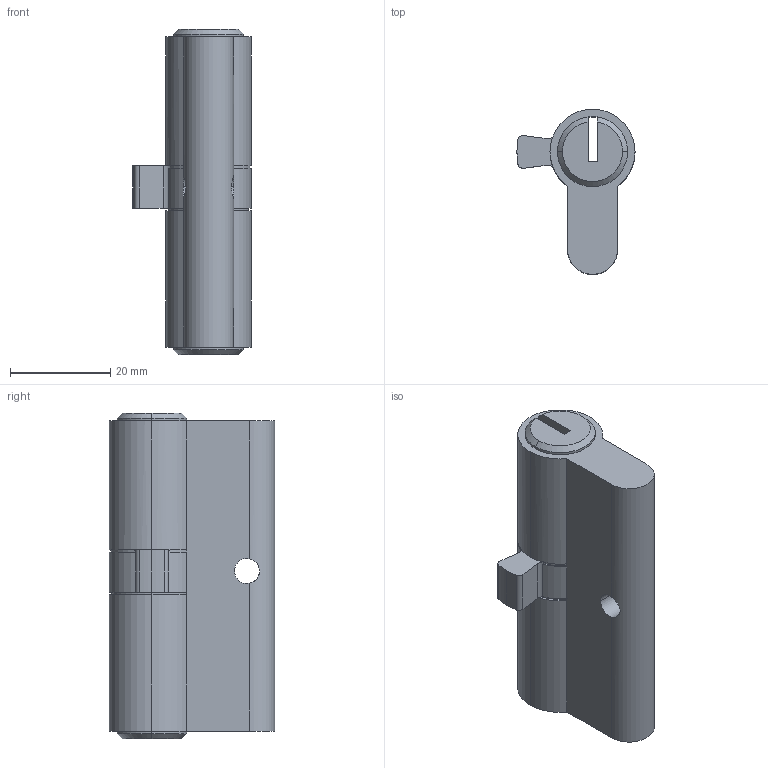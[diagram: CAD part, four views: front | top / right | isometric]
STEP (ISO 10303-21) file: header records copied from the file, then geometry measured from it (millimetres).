
FILE_DESCRIPTION (( 'STEP AP214' ), '1' );
FILE_NAME ('TPL-H-APC-015-R 09Oct2024.STEP', '2024-10-09T04:49:48', ( '' ), ( '' ), 'SwSTEP 2.0', 'SolidWorks 2023', '' );
FILE_SCHEMA (( 'AUTOMOTIVE_DESIGN' ));
Length unit declared in the file: millimetre
Products named in the file (1): TPL-H-APC-015-R 09Oct2024
Bounding box: 23.6 x 33 x 65 mm (x, y, z)
Volume: 23136.1 mm3; surface area: 7790.1 mm2
Topology: 1 solids, 1 shells, 52 faces, 144 edges, 90 vertices
Faces by surface type: cylinder 30, plane 16, cone 6
Entity records: 1775 total; most frequent: CARTESIAN_POINT 363, DIRECTION 314, ORIENTED_EDGE 288, EDGE_CURVE 144, AXIS2_PLACEMENT_3D 125, VERTEX_POINT 90, CIRCLE 72, LINE 64
